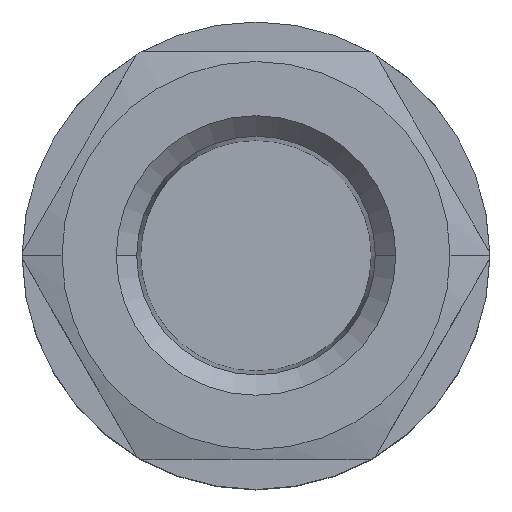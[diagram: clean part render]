
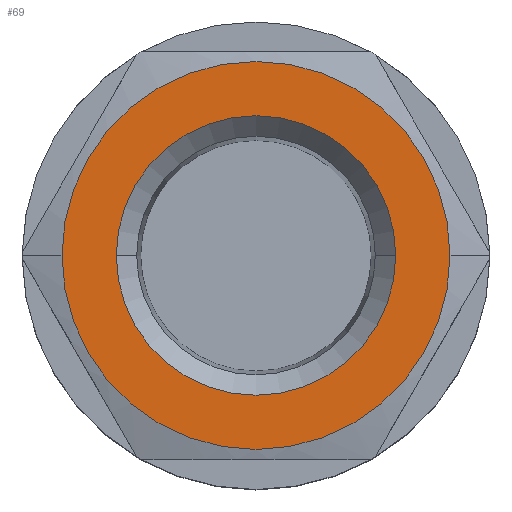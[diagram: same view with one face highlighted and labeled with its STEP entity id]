
A CAD part, top view. The second image highlights one B-rep face of the part: STEP entity #69.
In plain terms, the highlighted planar face has unit normal (0, 0, 1).
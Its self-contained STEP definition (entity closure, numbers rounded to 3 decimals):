
#69=ADVANCED_FACE('',(#400,#401),#399,.F.);
#399=PLANE('',#925);
#400=FACE_OUTER_BOUND('',#926,.T.);
#401=FACE_BOUND('',#927,.T.);
#922=CARTESIAN_POINT('',(44.85,-40.53,60.));
#923=DIRECTION('',(0.,0.,-1.));
#924=DIRECTION('',(-1.,0.,0.));
#925=AXIS2_PLACEMENT_3D('',#922,#923,#924);
#926=EDGE_LOOP('',(#1338,#1339));
#927=EDGE_LOOP('',(#1340,#1341));
#1338=ORIENTED_EDGE('',*,*,#1634,.F.);
#1339=ORIENTED_EDGE('',*,*,#1635,.F.);
#1340=ORIENTED_EDGE('',*,*,#1636,.T.);
#1341=ORIENTED_EDGE('',*,*,#1637,.T.);
#1634=EDGE_CURVE('',#2232,#2233,#2234,.T.);
#1635=EDGE_CURVE('',#2233,#2232,#2240,.T.);
#1636=EDGE_CURVE('',#2246,#2247,#2248,.T.);
#1637=EDGE_CURVE('',#2247,#2246,#2254,.T.);
#2232=VERTEX_POINT('',#3130);
#2233=VERTEX_POINT('',#3131);
#2234=CIRCLE('',#3135,19.5);
#2240=CIRCLE('',#3139,19.5);
#2246=VERTEX_POINT('',#3140);
#2247=VERTEX_POINT('',#3141);
#2248=CIRCLE('',#3145,14.05);
#2254=CIRCLE('',#3149,14.05);
#3130=CARTESIAN_POINT('',(19.5,0.,60.));
#3131=CARTESIAN_POINT('',(-19.5,0.,60.));
#3132=CARTESIAN_POINT('',(0.,0.,60.));
#3133=DIRECTION('',(0.,0.,-1.));
#3134=DIRECTION('',(-1.,0.,0.));
#3135=AXIS2_PLACEMENT_3D('',#3132,#3133,#3134);
#3136=CARTESIAN_POINT('',(0.,0.,60.));
#3137=DIRECTION('',(0.,0.,-1.));
#3138=DIRECTION('',(-1.,0.,0.));
#3139=AXIS2_PLACEMENT_3D('',#3136,#3137,#3138);
#3140=CARTESIAN_POINT('',(-14.05,0.,60.));
#3141=CARTESIAN_POINT('',(14.05,0.,60.));
#3142=CARTESIAN_POINT('',(0.,0.,60.));
#3143=DIRECTION('',(0.,0.,-1.));
#3144=DIRECTION('',(-1.,0.,0.));
#3145=AXIS2_PLACEMENT_3D('',#3142,#3143,#3144);
#3146=CARTESIAN_POINT('',(0.,0.,60.));
#3147=DIRECTION('',(0.,0.,-1.));
#3148=DIRECTION('',(-1.,0.,0.));
#3149=AXIS2_PLACEMENT_3D('',#3146,#3147,#3148);
